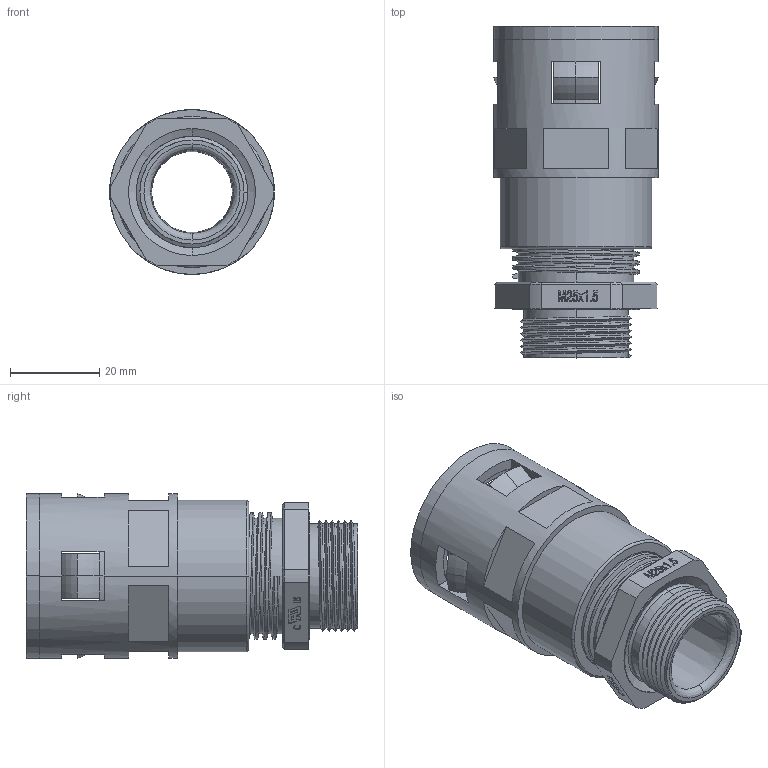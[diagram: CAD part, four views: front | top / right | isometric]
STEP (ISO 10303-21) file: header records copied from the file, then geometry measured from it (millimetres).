
FILE_DESCRIPTION (( 'STEP AP203' ), '1' );
FILE_NAME ('WQGZ-M25-AD28.5.STEP', '2016-05-24T02:54:28', ( '' ), ( '' ), 'SwSTEP 2.0', 'SolidWorks 2010', '' );
FILE_SCHEMA (( 'CONFIG_CONTROL_DESIGN' ));
Length unit declared in the file: millimetre
Products named in the file (7): WQGZ-M25-AD28.5; CTH-P21; HSK-M25-01; WQG2-Tr28-AD28.5; WQG3-Tr28-AD28.5-01; NSK-AD28.5; GFD-AD28.5
Assembly tree (6 placements, depth 3):
  WQGZ-M25-AD28.5
    WQG2-Tr28-AD28.5
      NSK-AD28.5
      GFD-AD28.5
      WQG3-Tr28-AD28.5-01
    CTH-P21
    HSK-M25-01
Bounding box: 37 x 74.5 x 37 mm (x, y, z)
Volume: 32151 mm3; surface area: 29204.8 mm2
Topology: 5 solids, 5 shells, 638 faces, 1679 edges, 1079 vertices
Faces by surface type: plane 352, bspline 95, cylinder 82, cone 75, torus 34
Entity records: 29634 total; most frequent: CARTESIAN_POINT 13707, ORIENTED_EDGE 3358, DIRECTION 2907, EDGE_CURVE 1679, VERTEX_POINT 1079, AXIS2_PLACEMENT_3D 987, VECTOR 933, LINE 933
